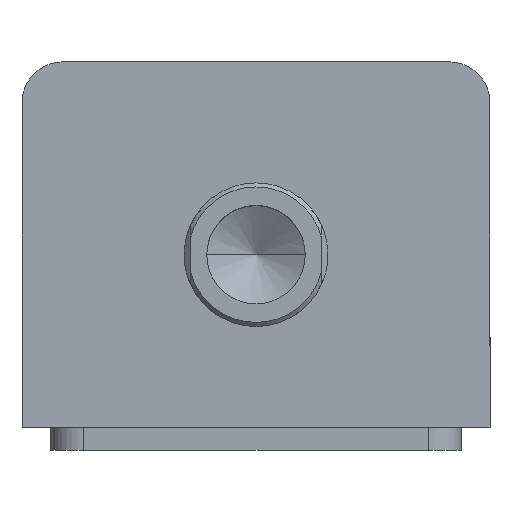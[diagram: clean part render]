
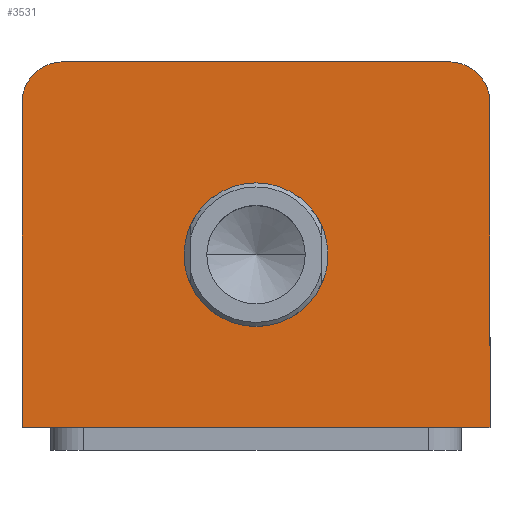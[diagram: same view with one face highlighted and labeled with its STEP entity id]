
A CAD part, top view. The second image highlights one B-rep face of the part: STEP entity #3531.
In plain terms, the highlighted planar face has unit normal (0, 0, 1).
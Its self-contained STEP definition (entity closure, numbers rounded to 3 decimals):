
#266 = EDGE_LOOP ( 'NONE', ( #2079, #2080, #2081, #2082, #2083, #2084 ) ) ;
#378 = LINE ( 'NONE', #827, #393 ) ;
#389 = CIRCLE ( 'NONE', #548, 17.5 ) ;
#393 = VECTOR ( 'NONE', #821, 1000. ) ;
#403 = CIRCLE ( 'NONE', #552, 17.5 ) ;
#467 = EDGE_CURVE ( 'NONE', #2150, #2148, #389, .T. ) ;
#468 = EDGE_CURVE ( 'NONE', #2149, #2152, #378, .T. ) ;
#476 = EDGE_CURVE ( 'NONE', #2148, #2150, #403, .T. ) ;
#548 = AXIS2_PLACEMENT_3D ( 'NONE', #828, #829, #830 ) ;
#552 = AXIS2_PLACEMENT_3D ( 'NONE', #850, #851, #852 ) ;
#624 = CARTESIAN_POINT ( 'NONE',  ( 0., 0., 97. ) ) ;
#630 = PLANE ( 'NONE',  #730 ) ;
#632 = DIRECTION ( 'NONE',  ( 0., 0., 1. ) ) ;
#633 = DIRECTION ( 'NONE',  ( 1., 0., 0. ) ) ;
#730 = AXIS2_PLACEMENT_3D ( 'NONE', #624, #632, #633 ) ;
#821 = DIRECTION ( 'NONE',  ( 1., 0., 0. ) ) ;
#827 = CARTESIAN_POINT ( 'NONE',  ( -57., -44.5, 97. ) ) ;
#828 = CARTESIAN_POINT ( 'NONE',  ( 0., -2.5, 97. ) ) ;
#829 = DIRECTION ( 'NONE',  ( 0., 0., 1. ) ) ;
#830 = DIRECTION ( 'NONE',  ( 1., 0., 0. ) ) ;
#850 = CARTESIAN_POINT ( 'NONE',  ( 0., -2.5, 97. ) ) ;
#851 = DIRECTION ( 'NONE',  ( 0., 0., 1. ) ) ;
#852 = DIRECTION ( 'NONE',  ( 1., 0., 0. ) ) ;
#984 = CARTESIAN_POINT ( 'NONE',  ( -17.5, -2.5, 97. ) ) ;
#985 = CARTESIAN_POINT ( 'NONE',  ( -57., -44.5, 97. ) ) ;
#986 = CARTESIAN_POINT ( 'NONE',  ( 17.5, -2.5, 97. ) ) ;
#988 = CARTESIAN_POINT ( 'NONE',  ( 57., -44.5, 97. ) ) ;
#992 = CARTESIAN_POINT ( 'NONE',  ( -57., 34.5, 97. ) ) ;
#1018 = CARTESIAN_POINT ( 'NONE',  ( 47., 44.5, 97. ) ) ;
#1035 = CARTESIAN_POINT ( 'NONE',  ( 57., 34.5, 97. ) ) ;
#1036 = CARTESIAN_POINT ( 'NONE',  ( -47., 44.5, 97. ) ) ;
#1425 = EDGE_CURVE ( 'NONE', #2152, #2199, #2411, .T. ) ;
#1514 = FACE_BOUND ( 'NONE', #2044, .T. ) ;
#1517 = FACE_OUTER_BOUND ( 'NONE', #266, .T. ) ;
#1609 = EDGE_CURVE ( 'NONE', #2182, #2200, #2466, .T. ) ;
#1803 = EDGE_CURVE ( 'NONE', #2199, #2182, #3366, .T. ) ;
#1812 = EDGE_CURVE ( 'NONE', #2200, #2156, #3379, .T. ) ;
#1816 = EDGE_CURVE ( 'NONE', #2156, #2149, #3385, .T. ) ;
#2044 = EDGE_LOOP ( 'NONE', ( #2077, #2078 ) ) ;
#2077 = ORIENTED_EDGE ( 'NONE', *, *, #467, .F. ) ;
#2078 = ORIENTED_EDGE ( 'NONE', *, *, #476, .F. ) ;
#2079 = ORIENTED_EDGE ( 'NONE', *, *, #1609, .T. ) ;
#2080 = ORIENTED_EDGE ( 'NONE', *, *, #1812, .T. ) ;
#2081 = ORIENTED_EDGE ( 'NONE', *, *, #1816, .T. ) ;
#2082 = ORIENTED_EDGE ( 'NONE', *, *, #468, .T. ) ;
#2083 = ORIENTED_EDGE ( 'NONE', *, *, #1425, .T. ) ;
#2084 = ORIENTED_EDGE ( 'NONE', *, *, #1803, .T. ) ;
#2148 = VERTEX_POINT ( 'NONE', #984 ) ;
#2149 = VERTEX_POINT ( 'NONE', #985 ) ;
#2150 = VERTEX_POINT ( 'NONE', #986 ) ;
#2152 = VERTEX_POINT ( 'NONE', #988 ) ;
#2156 = VERTEX_POINT ( 'NONE', #992 ) ;
#2182 = VERTEX_POINT ( 'NONE', #1018 ) ;
#2199 = VERTEX_POINT ( 'NONE', #1035 ) ;
#2200 = VERTEX_POINT ( 'NONE', #1036 ) ;
#2411 = LINE ( 'NONE', #3068, #2414 ) ;
#2414 = VECTOR ( 'NONE', #3069, 1000. ) ;
#2466 = LINE ( 'NONE', #2961, #2469 ) ;
#2469 = VECTOR ( 'NONE', #2962, 1000. ) ;
#2522 = CARTESIAN_POINT ( 'NONE',  ( 47., 34.5, 97. ) ) ;
#2523 = DIRECTION ( 'NONE',  ( 0., 0., 1. ) ) ;
#2524 = DIRECTION ( 'NONE',  ( 1., 0., 0. ) ) ;
#2549 = CARTESIAN_POINT ( 'NONE',  ( -47., 34.5, 97. ) ) ;
#2550 = DIRECTION ( 'NONE',  ( 0., 0., 1. ) ) ;
#2551 = DIRECTION ( 'NONE',  ( 1., 0., 0. ) ) ;
#2559 = CARTESIAN_POINT ( 'NONE',  ( -57., 44.5, 97. ) ) ;
#2561 = DIRECTION ( 'NONE',  ( 0., -1., 0. ) ) ;
#2750 = AXIS2_PLACEMENT_3D ( 'NONE', #2522, #2523, #2524 ) ;
#2757 = AXIS2_PLACEMENT_3D ( 'NONE', #2549, #2550, #2551 ) ;
#2961 = CARTESIAN_POINT ( 'NONE',  ( -57., 44.5, 97. ) ) ;
#2962 = DIRECTION ( 'NONE',  ( -1., 0., 0. ) ) ;
#3068 = CARTESIAN_POINT ( 'NONE',  ( 57., 44.5, 97. ) ) ;
#3069 = DIRECTION ( 'NONE',  ( 0., 1., 0. ) ) ;
#3366 = CIRCLE ( 'NONE', #2750, 10. ) ;
#3379 = CIRCLE ( 'NONE', #2757, 10. ) ;
#3385 = LINE ( 'NONE', #2559, #3388 ) ;
#3388 = VECTOR ( 'NONE', #2561, 1000. ) ;
#3531 = ADVANCED_FACE ( 'NONE', ( #1514, #1517 ), #630, .T. ) ;
